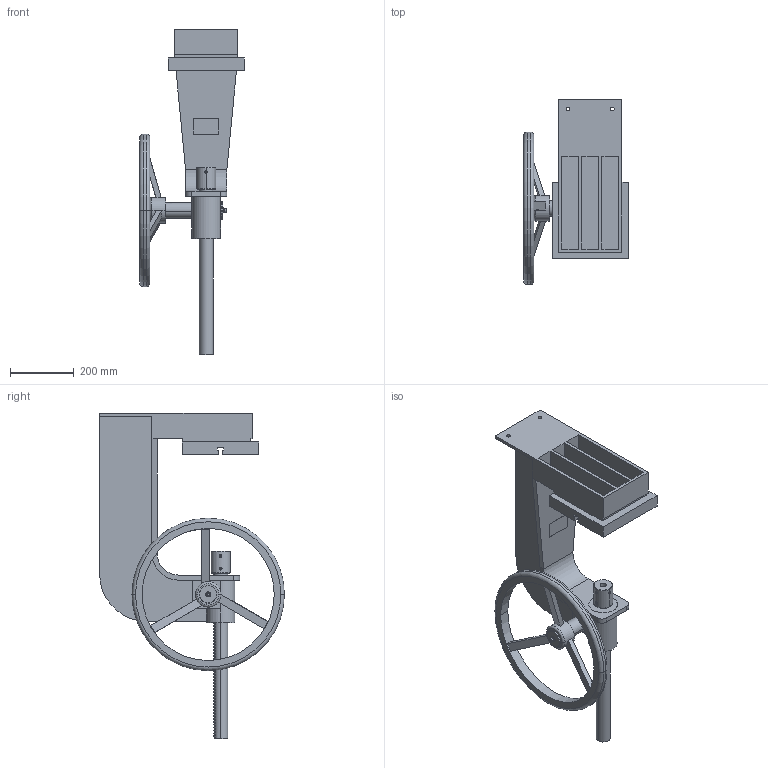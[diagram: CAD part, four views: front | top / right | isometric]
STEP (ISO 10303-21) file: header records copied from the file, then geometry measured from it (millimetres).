
FILE_DESCRIPTION((''),'2;1');
FILE_NAME('JPYC','2026-06-29T14:51:29',('zxb27'),(''),'CREO PARAMETRIC BY PTC INC, 2022164','CREO PARAMETRIC BY PTC INC, 2022164','');
FILE_SCHEMA(('AUTOMOTIVE_DESIGN { 1 0 10303 214 1 1 1 1 }'));
Length unit declared in the file: millimetre
Products named in the file (1): JPYC
Bounding box: 329.6 x 582 x 1024 mm (x, y, z)
Surface area: 1418588.4 mm2 (no closed solid volume)
Topology: 0 solids, 29 shells, 712 faces, 1732 edges, 1111 vertices
Faces by surface type: plane 375, cylinder 252, extrusion 28, cone 26, bspline 21, torus 10
Entity records: 34675 total; most frequent: CARTESIAN_POINT 13556, ORIENTED_EDGE 3394, DIRECTION 3075, EDGE_CURVE 1722, VERTEX_POINT 1111, AXIS2_PLACEMENT_3D 1062, VECTOR 951, LINE 923
